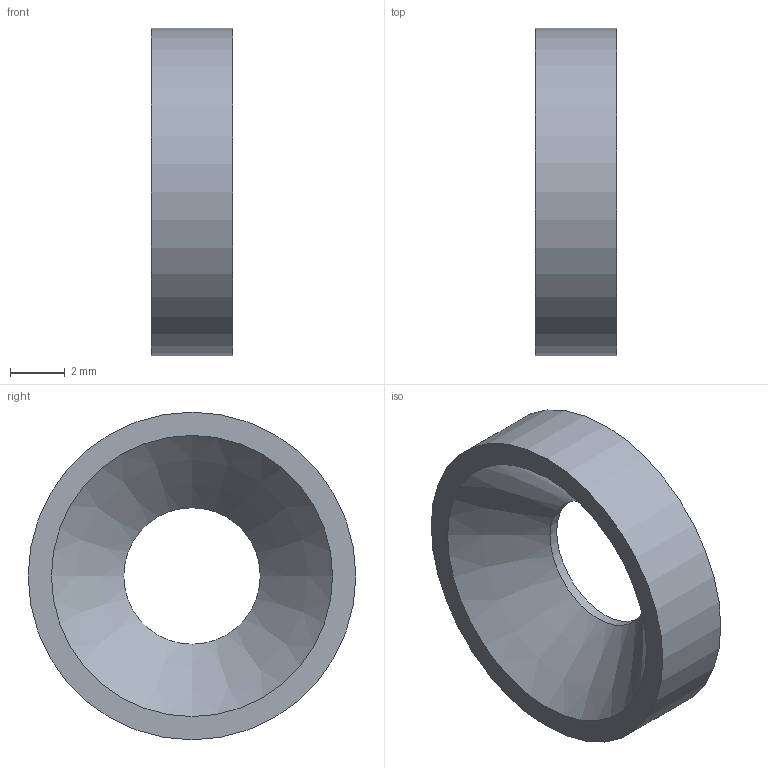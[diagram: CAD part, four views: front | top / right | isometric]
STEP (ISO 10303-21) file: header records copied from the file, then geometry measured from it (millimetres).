
FILE_DESCRIPTION(/* description */ ('STEP AP214'),/* implementation_level */ '2;1');
FILE_NAME(/* name */ 'Mounting Accessory GN 753.2-5-6-3-U-NI',/* time_stamp */ '2024-12-09T14:00:10+01:00',/* author */ ('License CC BY-ND 4.0'),/* organization */ ('CADENAS'),/* preprocessor_version */ 'ST-DEVELOPER v19.3',/* originating_system */ 'PARTsolutions',/* authorisation */ ' ');
FILE_SCHEMA (('AUTOMOTIVE_DESIGN {1 0 10303 214 3 1 1}'));
Length unit declared in the file: millimetre
Products named in the file (1): Mounting Accessory GN 753.2-5-6-3-U-NI
Bounding box: 3 x 12 x 12 mm (x, y, z)
Volume: 205.7 mm3; surface area: 331.9 mm2
Topology: 1 solids, 1 shells, 5 faces, 8 edges, 5 vertices
Faces by surface type: plane 2, cylinder 2, cone 1
Full cylindrical faces by diameter (mm): 5 x1, 12 x1
Entity records: 138 total; most frequent: DIRECTION 22, CARTESIAN_POINT 16, AXIS2_PLACEMENT_3D 11, ORIENTED_EDGE 10, EDGE_LOOP 10, FACE_BOUND 10, EDGE_CURVE 5, VERTEX_POINT 5
